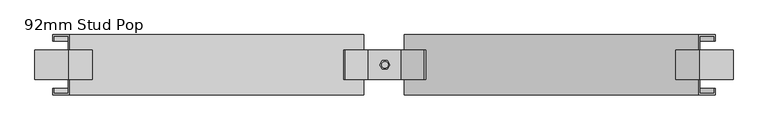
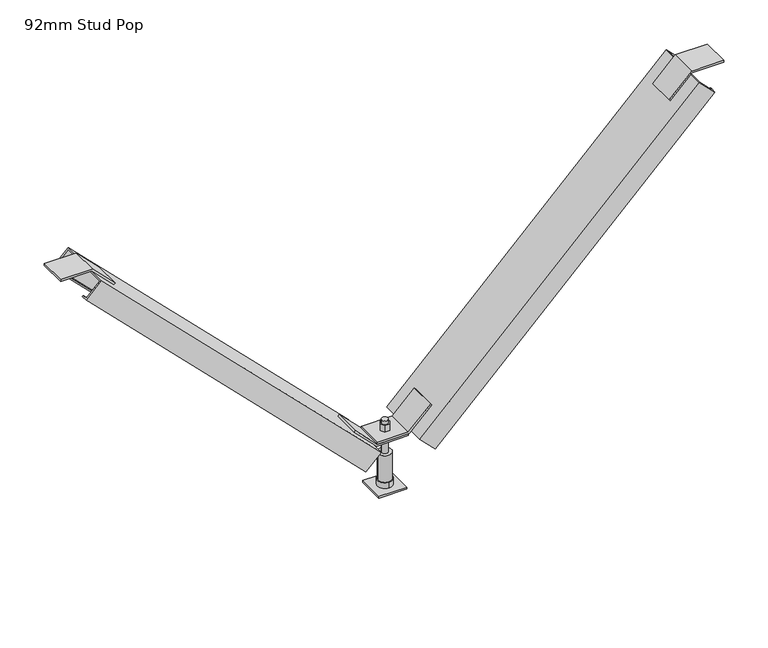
"""IFC4 building model written with IfcOpenShell, lengths in millimetres: beam geometry, Vertibrace Standard Brace : 92mm Stud Pop."""

from ifc_helpers import new_model, si_unit, frame, origin, origin_with_axes, place, context, project, spatial, polyline, circle_curve, outline, extrude, faceted_brep, source, transform, mapped, element, save
from ifc_brep_helpers import plane_surface, cylinder_surface, advanced_brep


def beam_92mm_stud_pop_189d612e(model_context):
    return source(origin(), model_context, "Body", "SolidModel", [
        extrude(outline(polyline([(547.0013294, 480.8434194), (547.0013294, 530.8278886), (550.0, 530.8278886), (550.0, 479.6013294), (513.7773526, 443.378682), (511.6569723, 445.4990623), (547.0013294, 480.8434194)])), frame((0.0, -22.5, 0.0), z_axis=(0.0, 1.0, 0.0), x_axis=(0.0, 0.0, 1.0)), (0.0, 0.0, 1.0), 45.0),
        extrude(outline(polyline([(547.0013294, -483.535654), (511.6569723, -448.1912969), (513.7773526, -446.0709166), (550.0, -482.293564), (550.0, -533.5201232), (547.0013294, -533.5201232), (547.0013294, -483.535654)])), frame((0.0, -22.5, 0.0), z_axis=(0.0, 1.0, 0.0), x_axis=(0.0, 0.0, 1.0)), (0.0, 0.0, 1.0), 45.0),
        extrude(outline(polyline([(95.6986706, 24.9922346), (95.6986706, -24.9922346), (92.7, -24.9922346), (92.7, 26.2343246), (128.9226474, 62.456972), (131.0430277, 60.3365917), (95.6986706, 24.9922346)])), frame((0.0, -22.5, 0.0), z_axis=(0.0, 1.0, 0.0), x_axis=(0.0, 0.0, 1.0)), (0.0, 0.0, 1.0), 45.0),
        extrude(outline(polyline([(92.6986706, -24.9922346), (128.0430277, -60.3365917), (125.9226474, -62.456972), (89.7, -26.2343246), (89.7, 24.9922346), (92.6986706, 24.9922346), (92.6986706, -24.9922346)])), frame((0.0, -22.5, 0.0), z_axis=(0.0, 1.0, 0.0), x_axis=(0.0, 0.0, 1.0)), (0.0, 0.0, 1.0), 45.0),
        extrude(outline(polyline([(22.5, 22.5), (22.5, -22.5), (-22.5, -22.5), (-22.5, 22.5), (22.5, 22.5)])), origin_with_axes(), (0.0, 0.0, 1.0), 3.0),
        advanced_brep(
        [(-5.0, 0.0, 0.0), (5.0, 0.0, 0.0), (-5.0, 0.0, 113.0), (5.0, 0.0, 113.0), (5.0, 0.0, 3.0), (-5.0, 0.0, 3.0), (-5.0, 0.0, 107.4), (5.0, 0.0, 107.4), (-5.0, 0.0, 58.0), (5.0, 0.0, 58.0), (5.0, 0.0, 83.0), (-5.0, 0.0, 83.0), (5.0, 0.0, 95.7), (-5.0, 0.0, 95.7), (-5.0, 0.0, 89.7), (5.0, 0.0, 89.7), (-10.5, 0.0, 58.0), (10.5, 0.0, 58.0), (-10.5, 0.0, 13.0), (10.5, 0.0, 13.0), (0.0, -12.0, 13.0), (0.0, 12.0, 13.0), (3.75, 6.4951905, 107.4), (-3.75, 6.4951905, 107.4), (-7.5, 0.0, 107.4), (-3.75, -6.4951905, 107.4), (3.75, -6.4951905, 107.4), (7.5, 0.0, 107.4), (3.75, 6.4951905, 95.7), (7.5, 0.0, 95.7), (3.75, -6.4951905, 95.7), (-3.75, -6.4951905, 95.7), (-7.5, 0.0, 95.7), (-3.75, 6.4951905, 95.7), (-10.9696551, 0.0, 89.7), (-5.4848276, -9.5, 89.7), (5.4848276, -9.5, 89.7), (10.9696551, 0.0, 89.7), (5.4848276, 9.5, 89.7), (-5.4848276, 9.5, 89.7), (-10.9696551, 0.0, 83.0), (-5.4848276, 9.5, 83.0), (5.4848276, 9.5, 83.0), (10.9696551, 0.0, 83.0), (5.4848276, -9.5, 83.0), (-5.4848276, -9.5, 83.0), (0.0, -12.0, 3.0), (0.0, 12.0, 3.0)],
        [
            (0, 1, circle_curve(frame((0.0, 0.0, 0.0), z_axis=(0.0, 0.0, -1.0), x_axis=(1.0, 0.0, 0.0)), 5.0)),
            (1, 0, circle_curve(frame((0.0, 0.0, 0.0), z_axis=(0.0, 0.0, -1.0), x_axis=(1.0, 0.0, 0.0)), 5.0)),
            (2, 3, circle_curve(frame((0.0, 0.0, 113.0), z_axis=(0.0, 0.0, 1.0), x_axis=(1.0, 0.0, 0.0)), 5.0)),
            (3, 2, circle_curve(frame((0.0, 0.0, 113.0), z_axis=(0.0, 0.0, 1.0), x_axis=(1.0, 0.0, 0.0)), 5.0)),
            (1, 4),
            (4, 5, circle_curve(frame((0.0, 0.0, 3.0), z_axis=(0.0, 0.0, -1.0), x_axis=(1.0, 0.0, 0.0)), 5.0)),
            (5, 0),
            (2, 6),
            (6, 7, circle_curve(frame((0.0, 0.0, 107.4), z_axis=(0.0, 0.0, 1.0), x_axis=(1.0, 0.0, 0.0)), 5.0)),
            (7, 3),
            (8, 9, circle_curve(frame((0.0, 0.0, 58.0), z_axis=(0.0, 0.0, 1.0), x_axis=(1.0, 0.0, 0.0)), 5.0)),
            (9, 10),
            (10, 11, circle_curve(frame((0.0, 0.0, 83.0), z_axis=(0.0, 0.0, -1.0), x_axis=(1.0, 0.0, 0.0)), 5.0)),
            (11, 8),
            (12, 13, circle_curve(frame((0.0, 0.0, 95.7), z_axis=(0.0, 0.0, -1.0), x_axis=(1.0, 0.0, 0.0)), 5.0)),
            (13, 14),
            (14, 15, circle_curve(frame((0.0, 0.0, 89.7), z_axis=(0.0, 0.0, 1.0), x_axis=(1.0, 0.0, 0.0)), 5.0)),
            (15, 12),
            (5, 4, circle_curve(frame((0.0, 0.0, 3.0), z_axis=(0.0, 0.0, -1.0), x_axis=(1.0, 0.0, 0.0)), 5.0)),
            (7, 6, circle_curve(frame((0.0, 0.0, 107.4), z_axis=(0.0, 0.0, 1.0), x_axis=(1.0, 0.0, 0.0)), 5.0)),
            (9, 8, circle_curve(frame((0.0, 0.0, 58.0), z_axis=(0.0, 0.0, 1.0), x_axis=(1.0, 0.0, 0.0)), 5.0)),
            (11, 10, circle_curve(frame((0.0, 0.0, 83.0), z_axis=(0.0, 0.0, -1.0), x_axis=(1.0, 0.0, 0.0)), 5.0)),
            (13, 12, circle_curve(frame((0.0, 0.0, 95.7), z_axis=(0.0, 0.0, -1.0), x_axis=(1.0, 0.0, 0.0)), 5.0)),
            (15, 14, circle_curve(frame((0.0, 0.0, 89.7), z_axis=(0.0, 0.0, 1.0), x_axis=(1.0, 0.0, 0.0)), 5.0)),
            (16, 17, circle_curve(frame((0.0, 0.0, 58.0), z_axis=(0.0, 0.0, 1.0), x_axis=(1.0, 0.0, 0.0)), 10.5)),
            (17, 16, circle_curve(frame((0.0, 0.0, 58.0), z_axis=(0.0, 0.0, 1.0), x_axis=(1.0, 0.0, 0.0)), 10.5)),
            (16, 18),
            (18, 19, circle_curve(frame((0.0, 0.0, 13.0), z_axis=(0.0, 0.0, 1.0), x_axis=(1.0, 0.0, 0.0)), 10.5)),
            (19, 17),
            (19, 18, circle_curve(frame((0.0, 0.0, 13.0), z_axis=(0.0, 0.0, 1.0), x_axis=(1.0, 0.0, 0.0)), 10.5)),
            (20, 21, circle_curve(frame((0.0, 0.0, 13.0), z_axis=(0.0, 0.0, 1.0), x_axis=(0.0, 1.0, 0.0)), 12.0)),
            (21, 20, circle_curve(frame((0.0, 0.0, 13.0), z_axis=(0.0, 0.0, 1.0), x_axis=(0.0, 1.0, 0.0)), 12.0)),
            (22, 23),
            (23, 24),
            (24, 25),
            (25, 26),
            (26, 27),
            (27, 22),
            (28, 29),
            (29, 30),
            (30, 31),
            (31, 32),
            (32, 33),
            (33, 28),
            (22, 28),
            (33, 23),
            (32, 24),
            (31, 25),
            (30, 26),
            (29, 27),
            (34, 35),
            (35, 36),
            (36, 37),
            (37, 38),
            (38, 39),
            (39, 34),
            (40, 41),
            (41, 42),
            (42, 43),
            (43, 44),
            (44, 45),
            (45, 40),
            (34, 40),
            (45, 35),
            (44, 36),
            (43, 37),
            (42, 38),
            (41, 39),
            (46, 47, circle_curve(frame((0.0, 0.0, 3.0), z_axis=(0.0, 0.0, -1.0), x_axis=(0.0, 1.0, 0.0)), 12.0)),
            (47, 46, circle_curve(frame((0.0, 0.0, 3.0), z_axis=(0.0, 0.0, -1.0), x_axis=(0.0, 1.0, 0.0)), 12.0)),
            (47, 21),
            (20, 46),
        ],
        [
            plane_surface(frame((5.0, 0.0, 0.0), z_axis=(0.0, 0.0, -1.0), x_axis=(0.0, -1.0, 0.0))),
            plane_surface(frame((5.0, 0.0, 113.0), z_axis=(0.0, 0.0, 1.0), x_axis=(0.0, 1.0, 0.0))),
            cylinder_surface(origin_with_axes(), 5.0),
            plane_surface(frame((10.5, 0.0, 58.0), z_axis=(0.0, 0.0, 1.0), x_axis=(0.0, 1.0, 0.0))),
            cylinder_surface(frame((0.0, 0.0, 13.0), z_axis=(0.0, 0.0, 1.0), x_axis=(1.0, 0.0, 0.0)), 10.5),
            plane_surface(frame((0.0, 12.0, 13.0), z_axis=(0.0, 0.0, 1.0), x_axis=(-1.0, 0.0, 0.0))),
            plane_surface(frame((3.75, 6.4951905, 107.4), z_axis=(0.0, 0.0, 1.0), x_axis=(-1.0, 0.0, 0.0))),
            plane_surface(frame((3.75, 6.4951905, 95.7), z_axis=(0.0, 0.0, -1.0), x_axis=(1.0, 0.0, 0.0))),
            plane_surface(frame((3.75, 6.4951905, 107.4), z_axis=(0.0, 1.0, 0.0), x_axis=(0.0, 0.0, -1.0))),
            plane_surface(frame((-3.75, 6.4951905, 107.4), z_axis=(-0.866025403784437, 0.5000000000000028, 0.0), x_axis=(0.0, 0.0, -1.0))),
            plane_surface(frame((-7.5, 0.0, 107.4), z_axis=(-0.8660254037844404, -0.4999999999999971, 0.0), x_axis=(0.0, 0.0, -1.0))),
            plane_surface(frame((-3.75, -6.4951905, 107.4), z_axis=(0.0, -1.0, 0.0), x_axis=(0.0, 0.0, -1.0))),
            plane_surface(frame((3.75, -6.4951905, 107.4), z_axis=(0.8660254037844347, -0.500000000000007, 0.0), x_axis=(0.0, 0.0, -1.0))),
            plane_surface(frame((7.5, 0.0, 107.4), z_axis=(0.8660254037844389, 0.49999999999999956, 0.0), x_axis=(0.0, 0.0, -1.0))),
            plane_surface(frame((-10.9696551, 0.0, 89.7), z_axis=(0.0, 0.0, 1.0000000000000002), x_axis=(0.4999999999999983, -0.8660254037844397, 0.0))),
            plane_surface(frame((-10.9696551, 0.0, 83.0), z_axis=(0.0, 0.0, -1.0000000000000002), x_axis=(-0.4999999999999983, 0.8660254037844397, 0.0))),
            plane_surface(frame((-10.9696551, 0.0, 89.7), z_axis=(-0.8660254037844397, -0.4999999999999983, 0.0), x_axis=(0.0, 0.0, -1.0))),
            plane_surface(frame((-5.4848276, -9.5, 89.7), z_axis=(0.0, -1.0, 0.0), x_axis=(0.0, 0.0, -1.0))),
            plane_surface(frame((5.4848276, -9.5, 89.7), z_axis=(0.8660254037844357, -0.5000000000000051, 0.0), x_axis=(0.0, 0.0, -1.0))),
            plane_surface(frame((10.9696551, 0.0, 89.7), z_axis=(0.8660254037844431, 0.4999999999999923, 0.0), x_axis=(0.0, 0.0, -1.0))),
            plane_surface(frame((5.4848276, 9.5, 89.7), z_axis=(0.0, 1.0, 0.0), x_axis=(0.0, 0.0, -1.0))),
            plane_surface(frame((-5.4848276, 9.5, 89.7), z_axis=(-0.8660254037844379, 0.5000000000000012, 0.0), x_axis=(0.0, 0.0, -1.0))),
            plane_surface(frame((0.0, 12.0, 3.0), z_axis=(0.0, 0.0, -1.0), x_axis=(1.0, 0.0, 0.0))),
            cylinder_surface(frame((0.0, 0.0, 3.0), z_axis=(0.0, 0.0, 1.0), x_axis=(0.0, 1.0, 0.0)), 12.0),
        ],
        [
            (0, [[1, 2]]),
            (1, [[3, 4]]),
            (2, [[-2, 5, 6, 7]]),
            (2, [[-3, 8, 9, 10]]),
            (2, [[11, 12, 13, 14]]),
            (2, [[15, 16, 17, 18]]),
            (2, [[-1, -7, 19, -5]]),
            (2, [[-4, -10, 20, -8]]),
            (2, [[21, -14, 22, -12]]),
            (2, [[23, -18, 24, -16]]),
            (3, [[25, 26], [-11, -21]]),
            (4, [[-25, 27, 28, 29]]),
            (4, [[-26, -29, 30, -27]]),
            (5, [[31, 32], [-28, -30]]),
            (6, [[33, 34, 35, 36, 37, 38], [-9, -20]]),
            (7, [[39, 40, 41, 42, 43, 44], [-15, -23]]),
            (8, [[-33, 45, -44, 46]]),
            (9, [[-34, -46, -43, 47]]),
            (10, [[-35, -47, -42, 48]]),
            (11, [[-36, -48, -41, 49]]),
            (12, [[-37, -49, -40, 50]]),
            (13, [[-38, -50, -39, -45]]),
            (14, [[51, 52, 53, 54, 55, 56], [-17, -24]]),
            (15, [[57, 58, 59, 60, 61, 62], [-13, -22]]),
            (16, [[-51, 63, -62, 64]]),
            (17, [[-52, -64, -61, 65]]),
            (18, [[-53, -65, -60, 66]]),
            (19, [[-54, -66, -59, 67]]),
            (20, [[-55, -67, -58, 68]]),
            (21, [[-56, -68, -57, -63]]),
            (22, [[69, 70], [-6, -19]]),
            (23, [[-70, 71, -31, 72]]),
            (23, [[-69, -72, -32, -71]]),
        ],
    ),
        faceted_brep([(39.9343246, 44.0, 85.0), (39.9343246, 46.0, 85.0), (68.0317993, 46.0, 85.0), (68.0317993, 36.0, 85.0), (65.2033722, 36.0, 85.0), (65.2033722, 44.0, 85.0), (68.0317993, -45.0, 85.0), (39.9343246, -45.0, 85.0), (39.9343246, -44.0, 85.0), (65.2033722, -44.0, 85.0), (65.2033722, -36.0, 85.0), (68.0317993, -36.0, 85.0), (30.6485382, 44.0, 94.2857864), (30.6485382, -44.0, 94.2857864), (53.983062, -45.0, 70.9512627), (53.983062, -46.0, 70.9512627), (29.2343246, -46.0, 95.7), (29.2343246, 46.0, 95.7), (478.5343246, 46.0, 545.0), (478.5343246, -46.0, 545.0), (503.283062, -46.0, 520.2512627), (503.283062, -36.0, 520.2512627), (501.8688484, -36.0, 521.6654762), (501.8688484, -44.0, 521.6654762), (479.9485382, -44.0, 543.5857864), (479.9485382, 44.0, 543.5857864), (501.8688484, 44.0, 521.6654762), (501.8688484, 36.0, 521.6654762), (503.283062, 36.0, 520.2512627), (503.283062, 46.0, 520.2512627)], [[[0, 1, 2, 3, 4, 5]], [[6, 7, 8, 9, 10, 11]], [[12, 13, 8, 7, 14, 15, 16, 17, 1, 0]], [[18, 19, 20, 21, 22, 23, 24, 25, 26, 27, 28, 29]], [[18, 29, 2, 1, 17]], [[29, 28, 3, 2]], [[28, 27, 4, 3]], [[27, 26, 5, 4]], [[26, 25, 12, 0, 5]], [[13, 12, 25, 24]], [[24, 23, 9, 8, 13]], [[23, 22, 10, 9]], [[22, 21, 11, 10]], [[21, 20, 15, 14, 6, 11]], [[16, 15, 20, 19]], [[17, 16, 19, 18]], [[7, 6, 14]]]),
        faceted_brep([(-32.5343246, -46.0, 96.0), (-57.283062, -46.0, 71.2512627), (-57.283062, -45.0, 71.2512627), (-43.5343246, -45.0, 85.0), (-43.5343246, -44.0, 85.0), (-33.9485382, -44.0, 94.5857864), (-33.9485382, 44.0, 94.5857864), (-43.5343246, 44.0, 85.0), (-43.5343246, 46.0, 85.0), (-32.5343246, 46.0, 96.0), (-481.4883773, -46.0, 544.9540527), (-481.4883773, 46.0, 544.9540527), (-506.2371147, 46.0, 520.2053154), (-506.2371147, 36.0, 520.2053154), (-504.8229011, 36.0, 521.6195289), (-504.8229011, 44.0, 521.6195289), (-482.9025909, 44.0, 543.5398392), (-482.9025909, -44.0, 543.5398392), (-504.8229011, -44.0, 521.6195289), (-504.8229011, -36.0, 521.6195289), (-506.2371147, -36.0, 520.2053154), (-506.2371147, -46.0, 520.2053154), (-71.0317993, -36.0, 85.0), (-71.0317993, -45.0, 85.0), (-71.0317993, 46.0, 85.0), (-68.2033722, 44.0, 85.0), (-68.2033722, 36.0, 85.0), (-71.0317993, 36.0, 85.0), (-68.2033722, -36.0, 85.0), (-68.2033722, -44.0, 85.0)], [[[0, 1, 2, 3, 4, 5, 6, 7, 8, 9]], [[10, 11, 12, 13, 14, 15, 16, 17, 18, 19, 20, 21]], [[1, 0, 10, 21]], [[21, 20, 22, 23, 2, 1]], [[12, 11, 9, 8, 24]], [[0, 9, 11, 10]], [[8, 7, 25, 26, 27, 24]], [[3, 23, 22, 28, 29, 4]], [[20, 19, 28, 22]], [[19, 18, 29, 28]], [[18, 17, 5, 4, 29]], [[6, 5, 17, 16]], [[16, 15, 25, 7, 6]], [[15, 14, 26, 25]], [[14, 13, 27, 26]], [[13, 12, 24, 27]], [[23, 3, 2]]]),
    ])


if __name__ == "__main__":
    model = new_model("IFC4")
    model_context = context("Model", 3, world=origin())
    ifc_project = project(units=[si_unit("LENGTHUNIT", "METRE", prefix="MILLI")], contexts=[model_context])
    site = spatial("IfcSite", under=ifc_project)
    building = spatial("IfcBuilding", under=site)
    placement = place(None, origin())
    beam_92mm_stud_pop_shape = beam_92mm_stud_pop_189d612e(model_context)
    element("IfcBeam", 1, ObjectType="Vertibrace Standard Brace : 92mm Stud Pop", at=placement, inside=building, context=model_context, shape_type="MappedRepresentation", body=[
        mapped(beam_92mm_stud_pop_shape, transform((0.0, 0.0, 0.0), x_axis=(1.0, 0.0, 0.0), y_axis=(0.0, 1.0, 0.0), z_axis=(0.0, 0.0, 1.0))),
    ])
    save(model, "model.ifc")
